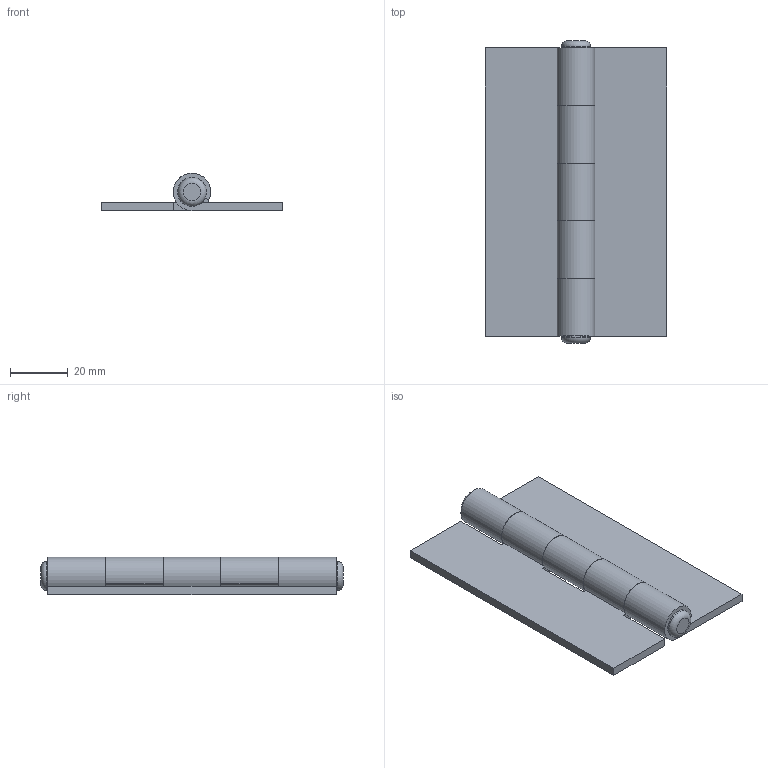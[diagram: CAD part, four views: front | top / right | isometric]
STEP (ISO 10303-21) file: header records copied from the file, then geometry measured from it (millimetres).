
FILE_DESCRIPTION(/* description */ (''),/* implementation_level */ '2;1');
FILE_NAME(/* name */ '\\NAS\db20\HTN10063-30\DR_HTN10063-30.stp',/* time_stamp */ '2017-08-23T08:21:11+09:00',/* author */ ('user'),/* organization */ (''),/* preprocessor_version */ 'ST-DEVELOPER v15.6',/* originating_system */ 'Autodesk Inventor 2015',/* authorisation */ '');
FILE_SCHEMA (('AUTOMOTIVE_DESIGN { 1 0 10303 214 3 1 1 }'));
Length unit declared in the file: millimetre
Products named in the file (3): DR_HTN10063-30-P1; DR_HTN10063-30-P2; DR_HTN10063-30
Bounding box: 63 x 105 x 12.99 mm (x, y, z)
Volume: 28865.1 mm3; surface area: 21451.9 mm2
Topology: 3 solids, 3 shells, 47 faces, 115 edges, 76 vertices
Faces by surface type: plane 32, cylinder 13, torus 2
Full cylindrical faces by diameter (mm): 7 x1, 10 x2
Entity records: 1427 total; most frequent: DIRECTION 242, CARTESIAN_POINT 238, ORIENTED_EDGE 220, EDGE_CURVE 110, LINE 82, VECTOR 82, AXIS2_PLACEMENT_3D 80, VERTEX_POINT 76
